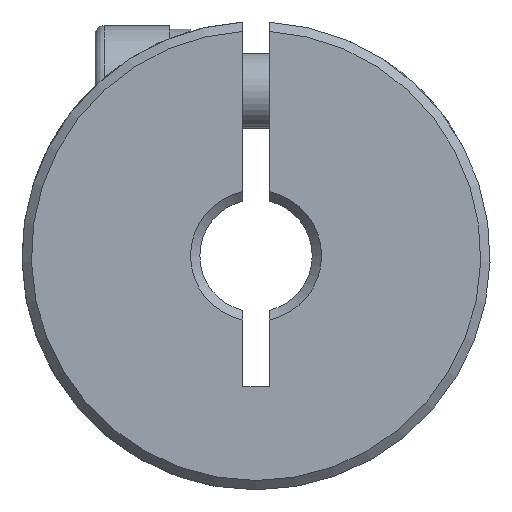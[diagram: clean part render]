
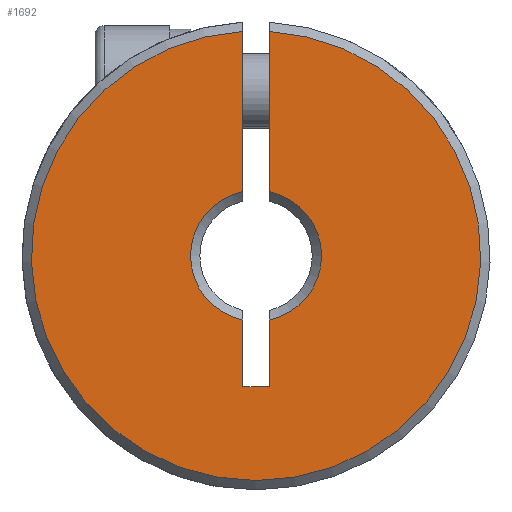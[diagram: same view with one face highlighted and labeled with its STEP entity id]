
A CAD part, front view. The second image highlights one B-rep face of the part: STEP entity #1692.
In plain terms, the highlighted planar face has unit normal (0, -1, 0).
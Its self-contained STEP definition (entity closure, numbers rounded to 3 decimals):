
#202 = EDGE_CURVE ( 'NONE', #612, #2454, #888, .T. ) ;
#253 = CARTESIAN_POINT ( 'NONE',  ( -0.7, 0.25, -3.429 ) ) ;
#266 = CARTESIAN_POINT ( 'NONE',  ( 0.7, 0.25, -3.429 ) ) ;
#405 = CARTESIAN_POINT ( 'NONE',  ( -0.7, 0.25, -7. ) ) ;
#431 = DIRECTION ( 'NONE',  ( 0., 0., -1. ) ) ;
#475 = ORIENTED_EDGE ( 'NONE', *, *, #2920, .F. ) ;
#520 = CARTESIAN_POINT ( 'NONE',  ( 0.7, 0.25, -7. ) ) ;
#593 = VERTEX_POINT ( 'NONE', #253 ) ;
#606 = DIRECTION ( 'NONE',  ( 1., 0., 0. ) ) ;
#612 = VERTEX_POINT ( 'NONE', #2442 ) ;
#620 = LINE ( 'NONE', #1042, #2871 ) ;
#627 = AXIS2_PLACEMENT_3D ( 'NONE', #1934, #2224, #2991 ) ;
#689 = CARTESIAN_POINT ( 'NONE',  ( -0.7, 0.25, -7. ) ) ;
#718 = AXIS2_PLACEMENT_3D ( 'NONE', #1764, #965, #2829 ) ;
#771 = EDGE_CURVE ( 'NONE', #593, #2561, #1856, .T. ) ;
#888 = LINE ( 'NONE', #520, #3021 ) ;
#918 = VECTOR ( 'NONE', #431, 1000. ) ;
#965 = DIRECTION ( 'NONE',  ( 0., 1., 0. ) ) ;
#1042 = CARTESIAN_POINT ( 'NONE',  ( -0.7, 0.25, -7. ) ) ;
#1059 = ORIENTED_EDGE ( 'NONE', *, *, #771, .T. ) ;
#1103 = DIRECTION ( 'NONE',  ( 0., 0., 1. ) ) ;
#1125 = VECTOR ( 'NONE', #3318, 1000. ) ;
#1194 = CARTESIAN_POINT ( 'NONE',  ( 0.7, 0.25, -7. ) ) ;
#1334 = ORIENTED_EDGE ( 'NONE', *, *, #2588, .F. ) ;
#1468 = CARTESIAN_POINT ( 'NONE',  ( 0.7, 0.25, 3.429 ) ) ;
#1521 = VECTOR ( 'NONE', #606, 1000. ) ;
#1609 = DIRECTION ( 'NONE',  ( 0., 0., -1. ) ) ;
#1617 = EDGE_LOOP ( 'NONE', ( #1709, #1619, #2969, #1334, #3261, #1059, #475, #1749 ) ) ;
#1618 = DIRECTION ( 'NONE',  ( 0., 1., 0. ) ) ;
#1619 = ORIENTED_EDGE ( 'NONE', *, *, #2698, .T. ) ;
#1638 = DIRECTION ( 'NONE',  ( 0., 0., 1. ) ) ;
#1639 = LINE ( 'NONE', #2451, #1521 ) ;
#1692 = ADVANCED_FACE ( 'NONE', ( #3133 ), #2068, .F. ) ;
#1706 = VERTEX_POINT ( 'NONE', #2253 ) ;
#1709 = ORIENTED_EDGE ( 'NONE', *, *, #2984, .F. ) ;
#1714 = EDGE_CURVE ( 'NONE', #593, #1794, #2420, .T. ) ;
#1747 = AXIS2_PLACEMENT_3D ( 'NONE', #2193, #2998, #1103 ) ;
#1749 = ORIENTED_EDGE ( 'NONE', *, *, #2541, .T. ) ;
#1764 = CARTESIAN_POINT ( 'NONE',  ( 12.5, 0.25, -50. ) ) ;
#1794 = VERTEX_POINT ( 'NONE', #405 ) ;
#1856 = CIRCLE ( 'NONE', #627, 3.5 ) ;
#1934 = CARTESIAN_POINT ( 'NONE',  ( 0., 0.25, 0. ) ) ;
#2068 = PLANE ( 'NONE',  #718 ) ;
#2193 = CARTESIAN_POINT ( 'NONE',  ( 0., 0.25, 0. ) ) ;
#2224 = DIRECTION ( 'NONE',  ( 0., 1., 0. ) ) ;
#2253 = CARTESIAN_POINT ( 'NONE',  ( -0.7, 0.25, 11.98 ) ) ;
#2420 = LINE ( 'NONE', #689, #918 ) ;
#2440 = VERTEX_POINT ( 'NONE', #3319 ) ;
#2441 = CARTESIAN_POINT ( 'NONE',  ( -0.7, 0.25, 3.429 ) ) ;
#2442 = CARTESIAN_POINT ( 'NONE',  ( 0.7, 0.25, -7. ) ) ;
#2451 = CARTESIAN_POINT ( 'NONE',  ( 0.7, 0.25, -7. ) ) ;
#2454 = VERTEX_POINT ( 'NONE', #266 ) ;
#2457 = LINE ( 'NONE', #1194, #1125 ) ;
#2492 = AXIS2_PLACEMENT_3D ( 'NONE', #3458, #1618, #1638 ) ;
#2541 = EDGE_CURVE ( 'NONE', #1706, #2440, #3088, .T. ) ;
#2561 = VERTEX_POINT ( 'NONE', #2441 ) ;
#2588 = EDGE_CURVE ( 'NONE', #1794, #612, #1639, .T. ) ;
#2698 = EDGE_CURVE ( 'NONE', #2755, #2454, #3000, .T. ) ;
#2755 = VERTEX_POINT ( 'NONE', #1468 ) ;
#2829 = DIRECTION ( 'NONE',  ( 0., 0., 1. ) ) ;
#2871 = VECTOR ( 'NONE', #1609, 1000. ) ;
#2920 = EDGE_CURVE ( 'NONE', #1706, #2561, #620, .T. ) ;
#2969 = ORIENTED_EDGE ( 'NONE', *, *, #202, .F. ) ;
#2984 = EDGE_CURVE ( 'NONE', #2755, #2440, #2457, .T. ) ;
#2991 = DIRECTION ( 'NONE',  ( 0., 0., 1. ) ) ;
#2998 = DIRECTION ( 'NONE',  ( 0., -1., 0. ) ) ;
#3000 = CIRCLE ( 'NONE', #2492, 3.5 ) ;
#3021 = VECTOR ( 'NONE', #3173, 1000. ) ;
#3088 = CIRCLE ( 'NONE', #1747, 12. ) ;
#3133 = FACE_OUTER_BOUND ( 'NONE', #1617, .T. ) ;
#3173 = DIRECTION ( 'NONE',  ( 0., 0., 1. ) ) ;
#3261 = ORIENTED_EDGE ( 'NONE', *, *, #1714, .F. ) ;
#3318 = DIRECTION ( 'NONE',  ( 0., 0., 1. ) ) ;
#3319 = CARTESIAN_POINT ( 'NONE',  ( 0.7, 0.25, 11.98 ) ) ;
#3458 = CARTESIAN_POINT ( 'NONE',  ( 0., 0.25, 0. ) ) ;
